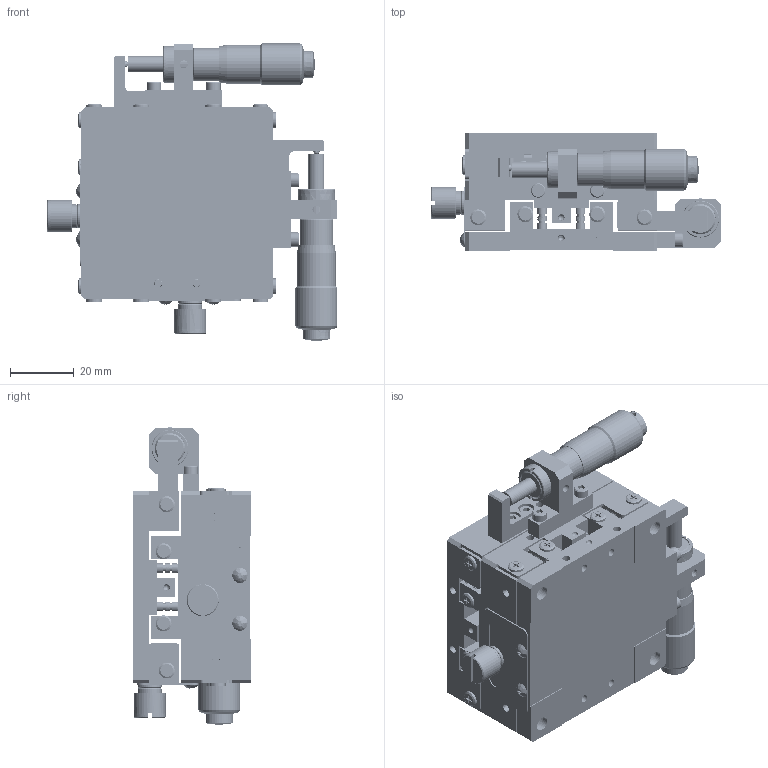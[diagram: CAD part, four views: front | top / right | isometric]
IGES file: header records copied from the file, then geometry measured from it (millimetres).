
Start section: SolidWorks IGES file using analytic representation for surfaces
Global section: file name: E:\0产品2d3d图纸-20180629\0-3种格式文件\产品图纸3d\08PBL\60\PBL-662S.IGS; native system: SolidWorks 2015; preprocessor: SolidWorks 2015; author: Administrator; date: 180724.172658; units: millimetre
Bounding box: 90.95 x 37 x 92.99 mm (x, y, z)
Surface area: 80941.3 mm2 (no closed solid volume)
Topology: 0 solids, 0 shells, 2082 faces, 32551 edges, 32391 vertices
Faces by surface type: revolution 1102, bspline 980
